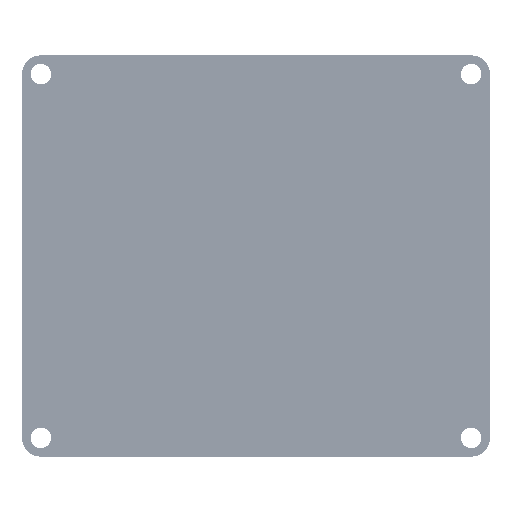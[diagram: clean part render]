
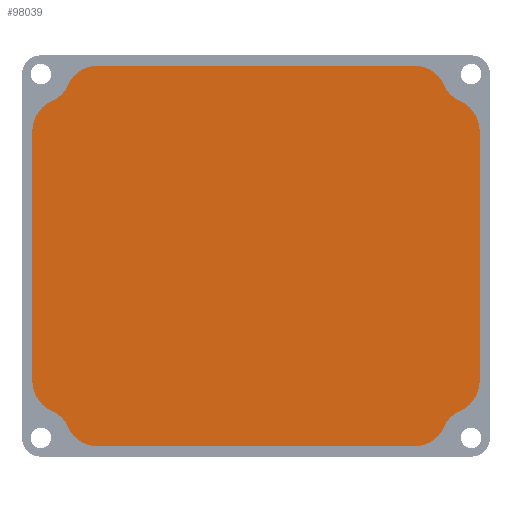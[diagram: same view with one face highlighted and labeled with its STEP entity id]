
A CAD part, front view. The second image highlights one B-rep face of the part: STEP entity #98039.
In plain terms, the highlighted planar face has unit normal (0, -1, 0) as drawn and (0, 0, 1) by its records, which use the part's own axes.
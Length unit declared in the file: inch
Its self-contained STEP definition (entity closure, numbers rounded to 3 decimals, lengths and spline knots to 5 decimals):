
#2659 = EDGE_CURVE ( 'NONE', #63642, #81282, #63209, .T. ) ;
#6007 = DIRECTION ( 'NONE',  ( -1., 0., 0. ) ) ;
#7804 = ORIENTED_EDGE ( 'NONE', *, *, #70566, .F. ) ;
#8305 = DIRECTION ( 'NONE',  ( 0., 0., 1. ) ) ;
#9119 = CIRCLE ( 'NONE', #46530, 0.2825 ) ;
#10389 = CIRCLE ( 'NONE', #91871, 0.32 ) ;
#14400 = CARTESIAN_POINT ( 'NONE',  ( 1.82626, 5.05444, 0.9 ) ) ;
#14487 = CIRCLE ( 'NONE', #106038, 0.32 ) ;
#15019 = CARTESIAN_POINT ( 'NONE',  ( 5.18773, 1.87531, 0.9 ) ) ;
#16284 = EDGE_CURVE ( 'NONE', #36403, #108165, #142901, .T. ) ;
#16430 = ORIENTED_EDGE ( 'NONE', *, *, #16284, .F. ) ;
#20483 = AXIS2_PLACEMENT_3D ( 'NONE', #14400, #112133, #28458 ) ;
#21048 = CARTESIAN_POINT ( 'NONE',  ( 5.20985, 4.73823, 0.9 ) ) ;
#21621 = CARTESIAN_POINT ( 'NONE',  ( 5.18773, 5.18059, 0.9 ) ) ;
#23607 = AXIS2_PLACEMENT_3D ( 'NONE', #145673, #61983, #159702 ) ;
#24051 = AXIS2_PLACEMENT_3D ( 'NONE', #162999, #79290, #176925 ) ;
#26985 = CARTESIAN_POINT ( 'NONE',  ( 4.89364, 5.37444, 0.9 ) ) ;
#27525 = ORIENTED_EDGE ( 'NONE', *, *, #164785, .F. ) ;
#28421 = CIRCLE ( 'NONE', #83287, 0.32 ) ;
#28458 = DIRECTION ( 'NONE',  ( 0., 1., 0. ) ) ;
#30582 = DIRECTION ( 'NONE',  ( -1., 0., 0. ) ) ;
#30715 = VERTEX_POINT ( 'NONE', #176025 ) ;
#30970 = VECTOR ( 'NONE', #40979, 39.37008 ) ;
#32472 = ORIENTED_EDGE ( 'NONE', *, *, #172771, .F. ) ;
#35032 = EDGE_CURVE ( 'NONE', #156049, #63642, #14487, .T. ) ;
#35096 = DIRECTION ( 'NONE',  ( 0., 1., 0. ) ) ;
#36403 = VERTEX_POINT ( 'NONE', #72440 ) ;
#39493 = EDGE_CURVE ( 'NONE', #142007, #115017, #99656, .T. ) ;
#40979 = DIRECTION ( 'NONE',  ( 1., 0., 0. ) ) ;
#41771 = DIRECTION ( 'NONE',  ( 0., 0., -1. ) ) ;
#42829 = ORIENTED_EDGE ( 'NONE', *, *, #136650, .F. ) ;
#44565 = CARTESIAN_POINT ( 'NONE',  ( 1.82626, 1.68145, 0.9 ) ) ;
#45609 = CARTESIAN_POINT ( 'NONE',  ( 1.27255, 5.29194, 0.9 ) ) ;
#45997 = VERTEX_POINT ( 'NONE', #15019 ) ;
#46261 = VECTOR ( 'NONE', #161018, 39.37008 ) ;
#46530 = AXIS2_PLACEMENT_3D ( 'NONE', #92009, #8305, #106026 ) ;
#48818 = VERTEX_POINT ( 'NONE', #162348 ) ;
#49256 = CARTESIAN_POINT ( 'NONE',  ( 5.52985, 2.31767, 0.9 ) ) ;
#49443 = DIRECTION ( 'NONE',  ( 0., 0., 1. ) ) ;
#52972 = CARTESIAN_POINT ( 'NONE',  ( 1.19005, 4.73823, 0.9 ) ) ;
#56497 = CARTESIAN_POINT ( 'NONE',  ( 4.89364, 2.00145, 0.9 ) ) ;
#58557 = VERTEX_POINT ( 'NONE', #130520 ) ;
#58639 = AXIS2_PLACEMENT_3D ( 'NONE', #70624, #168350, #84716 ) ;
#59540 = CARTESIAN_POINT ( 'NONE',  ( 1.19005, 4.73823, 0.9 ) ) ;
#59706 = DIRECTION ( 'NONE',  ( 0., 1., 0. ) ) ;
#60253 = ORIENTED_EDGE ( 'NONE', *, *, #39493, .F. ) ;
#60271 = VERTEX_POINT ( 'NONE', #149611 ) ;
#60401 = DIRECTION ( 'NONE',  ( 0., 0., -1. ) ) ;
#61983 = DIRECTION ( 'NONE',  ( 0., 0., -1. ) ) ;
#62754 = CARTESIAN_POINT ( 'NONE',  ( 1.38391, 5.03232, 0.9 ) ) ;
#63209 = LINE ( 'NONE', #52972, #137493 ) ;
#63642 = VERTEX_POINT ( 'NONE', #129851 ) ;
#63801 = CIRCLE ( 'NONE', #58639, 0.2825 ) ;
#63951 = VECTOR ( 'NONE', #30582, 39.37008 ) ;
#65661 = CARTESIAN_POINT ( 'NONE',  ( 5.33599, 5.03232, 0.9 ) ) ;
#69985 = EDGE_CURVE ( 'NONE', #139453, #36403, #174804, .T. ) ;
#70514 = DIRECTION ( 'NONE',  ( 0., 1., 0. ) ) ;
#70566 = EDGE_CURVE ( 'NONE', #48818, #58557, #93728, .T. ) ;
#70624 = CARTESIAN_POINT ( 'NONE',  ( 1.27255, 1.76395, 0.9 ) ) ;
#72440 = CARTESIAN_POINT ( 'NONE',  ( 1.53217, 5.18059, 0.9 ) ) ;
#74100 = ORIENTED_EDGE ( 'NONE', *, *, #69985, .F. ) ;
#78831 = CARTESIAN_POINT ( 'NONE',  ( 4.89364, 5.05444, 0.9 ) ) ;
#79290 = DIRECTION ( 'NONE',  ( 0., 0., -1. ) ) ;
#79971 = CARTESIAN_POINT ( 'NONE',  ( 1.51005, 2.31767, 0.9 ) ) ;
#80477 = DIRECTION ( 'NONE',  ( 0., 1., 0. ) ) ;
#81282 = VERTEX_POINT ( 'NONE', #59540 ) ;
#81792 = ORIENTED_EDGE ( 'NONE', *, *, #178333, .F. ) ;
#82150 = EDGE_CURVE ( 'NONE', #30715, #48818, #138251, .T. ) ;
#83106 = CIRCLE ( 'NONE', #145076, 0.2825 ) ;
#83287 = AXIS2_PLACEMENT_3D ( 'NONE', #21048, #118777, #35096 ) ;
#84716 = DIRECTION ( 'NONE',  ( 0., 1., 0. ) ) ;
#89979 = ORIENTED_EDGE ( 'NONE', *, *, #82150, .F. ) ;
#91871 = AXIS2_PLACEMENT_3D ( 'NONE', #78831, #176502, #92946 ) ;
#92009 = CARTESIAN_POINT ( 'NONE',  ( 5.44735, 1.76395, 0.9 ) ) ;
#92946 = DIRECTION ( 'NONE',  ( 0., 1., 0. ) ) ;
#93583 = VERTEX_POINT ( 'NONE', #128891 ) ;
#93728 = CIRCLE ( 'NONE', #24051, 0.32 ) ;
#94025 = DIRECTION ( 'NONE',  ( 0., 1., 0. ) ) ;
#94216 = VERTEX_POINT ( 'NONE', #65661 ) ;
#95527 = EDGE_CURVE ( 'NONE', #81282, #139453, #99149, .T. ) ;
#98039 = ADVANCED_FACE ( 'NONE', ( #179983 ), #173301, .F. ) ;
#98394 = CARTESIAN_POINT ( 'NONE',  ( 1.38391, 2.02358, 0.9 ) ) ;
#99149 = CIRCLE ( 'NONE', #169975, 0.32 ) ;
#99656 = CIRCLE ( 'NONE', #23607, 0.32 ) ;
#101374 = CARTESIAN_POINT ( 'NONE',  ( 5.33599, 2.02358, 0.9 ) ) ;
#106026 = DIRECTION ( 'NONE',  ( 0., 1., 0. ) ) ;
#106038 = AXIS2_PLACEMENT_3D ( 'NONE', #79971, #177592, #94025 ) ;
#108165 = VERTEX_POINT ( 'NONE', #121527 ) ;
#112080 = ORIENTED_EDGE ( 'NONE', *, *, #131631, .F. ) ;
#112133 = DIRECTION ( 'NONE',  ( 0., 0., -1. ) ) ;
#113656 = EDGE_CURVE ( 'NONE', #94216, #60271, #28421, .T. ) ;
#113725 = ORIENTED_EDGE ( 'NONE', *, *, #35032, .F. ) ;
#115017 = VERTEX_POINT ( 'NONE', #101374 ) ;
#116074 = ORIENTED_EDGE ( 'NONE', *, *, #178313, .F. ) ;
#118777 = DIRECTION ( 'NONE',  ( 0., 0., -1. ) ) ;
#120597 = LINE ( 'NONE', #49256, #46261 ) ;
#121527 = CARTESIAN_POINT ( 'NONE',  ( 1.82626, 5.37444, 0.9 ) ) ;
#125556 = CARTESIAN_POINT ( 'NONE',  ( 1.51005, 4.73823, 0.9 ) ) ;
#127745 = ORIENTED_EDGE ( 'NONE', *, *, #113656, .F. ) ;
#128201 = ORIENTED_EDGE ( 'NONE', *, *, #165341, .F. ) ;
#128891 = CARTESIAN_POINT ( 'NONE',  ( 4.89364, 5.37444, 0.9 ) ) ;
#129851 = CARTESIAN_POINT ( 'NONE',  ( 1.19005, 2.31767, 0.9 ) ) ;
#130520 = CARTESIAN_POINT ( 'NONE',  ( 1.53217, 1.87531, 0.9 ) ) ;
#131631 = EDGE_CURVE ( 'NONE', #93583, #133615, #10389, .T. ) ;
#133172 = CARTESIAN_POINT ( 'NONE',  ( 5.44735, 5.29194, 0.9 ) ) ;
#133615 = VERTEX_POINT ( 'NONE', #21621 ) ;
#136650 = EDGE_CURVE ( 'NONE', #133615, #94216, #83106, .T. ) ;
#137493 = VECTOR ( 'NONE', #80477, 39.37008 ) ;
#138044 = AXIS2_PLACEMENT_3D ( 'NONE', #56497, #154252, #70514 ) ;
#138251 = LINE ( 'NONE', #44565, #63951 ) ;
#139453 = VERTEX_POINT ( 'NONE', #62754 ) ;
#139542 = DIRECTION ( 'NONE',  ( 0., 1., 0. ) ) ;
#142007 = VERTEX_POINT ( 'NONE', #176287 ) ;
#142901 = CIRCLE ( 'NONE', #20483, 0.32 ) ;
#143380 = DIRECTION ( 'NONE',  ( 0., 0., 1. ) ) ;
#145076 = AXIS2_PLACEMENT_3D ( 'NONE', #133172, #49443, #147156 ) ;
#145673 = CARTESIAN_POINT ( 'NONE',  ( 5.20985, 2.31767, 0.9 ) ) ;
#147156 = DIRECTION ( 'NONE',  ( 0., 1., 0. ) ) ;
#149611 = CARTESIAN_POINT ( 'NONE',  ( 5.52985, 4.73823, 0.9 ) ) ;
#154252 = DIRECTION ( 'NONE',  ( 0., 0., -1. ) ) ;
#156049 = VERTEX_POINT ( 'NONE', #98394 ) ;
#156335 = AXIS2_PLACEMENT_3D ( 'NONE', #159311, #60401, #6007 ) ;
#156494 = ORIENTED_EDGE ( 'NONE', *, *, #95527, .F. ) ;
#159311 = CARTESIAN_POINT ( 'NONE',  ( 5.44735, 5.29194, 0.9 ) ) ;
#159702 = DIRECTION ( 'NONE',  ( 0., 1., 0. ) ) ;
#161018 = DIRECTION ( 'NONE',  ( 0., -1., 0. ) ) ;
#162348 = CARTESIAN_POINT ( 'NONE',  ( 1.82626, 1.68145, 0.9 ) ) ;
#162999 = CARTESIAN_POINT ( 'NONE',  ( 1.82626, 2.00145, 0.9 ) ) ;
#164785 = EDGE_CURVE ( 'NONE', #45997, #30715, #179666, .T. ) ;
#165341 = EDGE_CURVE ( 'NONE', #108165, #93583, #170836, .T. ) ;
#165585 = AXIS2_PLACEMENT_3D ( 'NONE', #45609, #143380, #59706 ) ;
#167537 = EDGE_LOOP ( 'NONE', ( #156494, #171921, #113725, #32472, #7804, #89979, #27525, #81792, #60253, #116074, #127745, #42829, #112080, #128201, #16430, #74100 ) ) ;
#168350 = DIRECTION ( 'NONE',  ( 0., 0., 1. ) ) ;
#169975 = AXIS2_PLACEMENT_3D ( 'NONE', #125556, #41771, #139542 ) ;
#170836 = LINE ( 'NONE', #26985, #30970 ) ;
#171921 = ORIENTED_EDGE ( 'NONE', *, *, #2659, .F. ) ;
#172771 = EDGE_CURVE ( 'NONE', #58557, #156049, #63801, .T. ) ;
#173301 = PLANE ( 'NONE',  #156335 ) ;
#174804 = CIRCLE ( 'NONE', #165585, 0.2825 ) ;
#176025 = CARTESIAN_POINT ( 'NONE',  ( 4.89364, 1.68145, 0.9 ) ) ;
#176287 = CARTESIAN_POINT ( 'NONE',  ( 5.52985, 2.31767, 0.9 ) ) ;
#176502 = DIRECTION ( 'NONE',  ( 0., 0., -1. ) ) ;
#176925 = DIRECTION ( 'NONE',  ( 0., 1., 0. ) ) ;
#177592 = DIRECTION ( 'NONE',  ( 0., 0., -1. ) ) ;
#178313 = EDGE_CURVE ( 'NONE', #60271, #142007, #120597, .T. ) ;
#178333 = EDGE_CURVE ( 'NONE', #115017, #45997, #9119, .T. ) ;
#179666 = CIRCLE ( 'NONE', #138044, 0.32 ) ;
#179983 = FACE_OUTER_BOUND ( 'NONE', #167537, .T. ) ;
